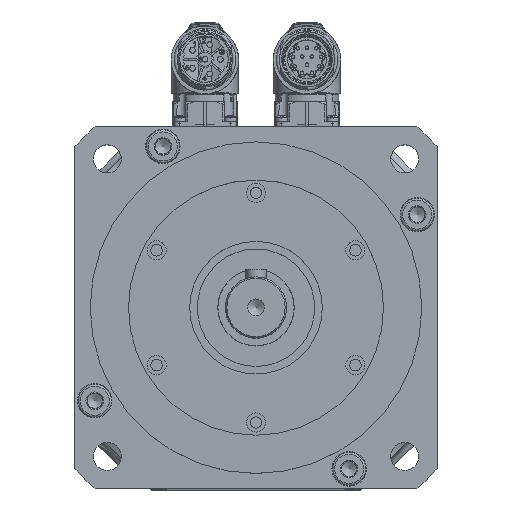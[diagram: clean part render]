
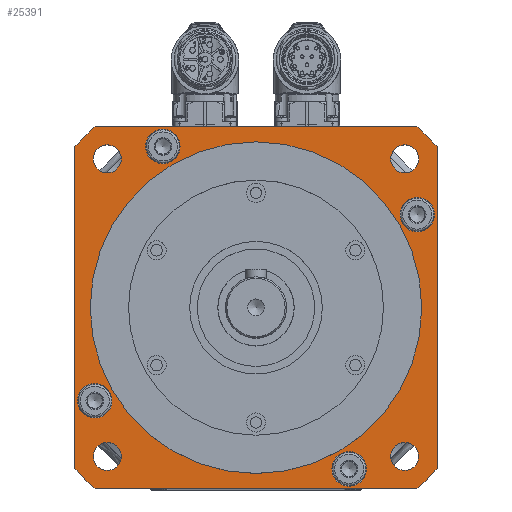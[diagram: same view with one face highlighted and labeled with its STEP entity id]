
A CAD part, top view. The second image highlights one B-rep face of the part: STEP entity #25391.
In plain terms, the highlighted planar face has unit normal (0, 0, 1).
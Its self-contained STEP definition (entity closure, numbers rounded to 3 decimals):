
#2255=LINE('',#38589,#3486);
#2259=LINE('',#38595,#3490);
#2260=LINE('',#38597,#3491);
#2261=LINE('',#38599,#3492);
#3486=VECTOR('',#31401,126.238);
#3490=VECTOR('',#31409,126.238);
#3491=VECTOR('',#31412,126.238);
#3492=VECTOR('',#31415,126.238);
#6186=FACE_BOUND('',#8733,.T.);
#6187=FACE_BOUND('',#8734,.T.);
#6188=FACE_BOUND('',#8735,.T.);
#6189=FACE_BOUND('',#8736,.T.);
#6190=FACE_BOUND('',#8737,.T.);
#6191=FACE_BOUND('',#8738,.T.);
#6192=FACE_BOUND('',#8739,.T.);
#6193=FACE_BOUND('',#8740,.T.);
#6194=FACE_BOUND('',#8741,.T.);
#6195=FACE_BOUND('',#8742,.T.);
#8733=EDGE_LOOP('',(#19320));
#8734=EDGE_LOOP('',(#19321));
#8735=EDGE_LOOP('',(#19322));
#8736=EDGE_LOOP('',(#19323));
#8737=EDGE_LOOP('',(#19324));
#8738=EDGE_LOOP('',(#19325));
#8739=EDGE_LOOP('',(#19326));
#8740=EDGE_LOOP('',(#19327));
#8741=EDGE_LOOP('',(#19328));
#8742=EDGE_LOOP('',(#19329,#19330,#19331,#19332,#19333,#19334,#19335,#19336));
#10470=CIRCLE('',#27311,5.5);
#10474=CIRCLE('',#27317,6.75);
#10476=CIRCLE('',#27321,5.5);
#10480=CIRCLE('',#27327,6.75);
#10482=CIRCLE('',#27331,5.5);
#10486=CIRCLE('',#27337,6.75);
#10490=CIRCLE('',#27344,6.75);
#10492=CIRCLE('',#27348,5.5);
#10501=CIRCLE('',#27363,65.);
#10502=CIRCLE('',#27366,95.);
#10504=CIRCLE('',#27369,95.);
#10507=CIRCLE('',#27373,95.);
#10508=CIRCLE('',#27375,95.);
#11992=VERTEX_POINT('',#38465);
#11996=VERTEX_POINT('',#38475);
#11998=VERTEX_POINT('',#38481);
#12002=VERTEX_POINT('',#38491);
#12004=VERTEX_POINT('',#38497);
#12008=VERTEX_POINT('',#38507);
#12012=VERTEX_POINT('',#38518);
#12014=VERTEX_POINT('',#38524);
#12023=VERTEX_POINT('',#38548);
#12024=VERTEX_POINT('',#38552);
#12026=VERTEX_POINT('',#38555);
#12028=VERTEX_POINT('',#38561);
#12030=VERTEX_POINT('',#38564);
#12033=VERTEX_POINT('',#38571);
#12035=VERTEX_POINT('',#38575);
#12036=VERTEX_POINT('',#38579);
#12038=VERTEX_POINT('',#38582);
#14771=EDGE_CURVE('',#11992,#11992,#10470,.T.);
#14775=EDGE_CURVE('',#11996,#11996,#10474,.T.);
#14777=EDGE_CURVE('',#11998,#11998,#10476,.T.);
#14781=EDGE_CURVE('',#12002,#12002,#10480,.T.);
#14783=EDGE_CURVE('',#12004,#12004,#10482,.T.);
#14787=EDGE_CURVE('',#12008,#12008,#10486,.T.);
#14791=EDGE_CURVE('',#12012,#12012,#10490,.T.);
#14793=EDGE_CURVE('',#12014,#12014,#10492,.T.);
#14802=EDGE_CURVE('',#12023,#12023,#10501,.T.);
#14804=EDGE_CURVE('',#12026,#12024,#10502,.T.);
#14808=EDGE_CURVE('',#12030,#12028,#10504,.T.);
#14814=EDGE_CURVE('',#12033,#12035,#10507,.T.);
#14816=EDGE_CURVE('',#12038,#12036,#10508,.T.);
#14820=EDGE_CURVE('',#12036,#12033,#2255,.T.);
#14824=EDGE_CURVE('',#12028,#12038,#2259,.T.);
#14825=EDGE_CURVE('',#12024,#12030,#2260,.T.);
#14826=EDGE_CURVE('',#12035,#12026,#2261,.T.);
#19320=ORIENTED_EDGE('',*,*,#14771,.T.);
#19321=ORIENTED_EDGE('',*,*,#14775,.T.);
#19322=ORIENTED_EDGE('',*,*,#14777,.T.);
#19323=ORIENTED_EDGE('',*,*,#14781,.T.);
#19324=ORIENTED_EDGE('',*,*,#14783,.T.);
#19325=ORIENTED_EDGE('',*,*,#14787,.T.);
#19326=ORIENTED_EDGE('',*,*,#14791,.T.);
#19327=ORIENTED_EDGE('',*,*,#14793,.T.);
#19328=ORIENTED_EDGE('',*,*,#14802,.T.);
#19329=ORIENTED_EDGE('',*,*,#14816,.T.);
#19330=ORIENTED_EDGE('',*,*,#14820,.T.);
#19331=ORIENTED_EDGE('',*,*,#14814,.T.);
#19332=ORIENTED_EDGE('',*,*,#14826,.T.);
#19333=ORIENTED_EDGE('',*,*,#14804,.T.);
#19334=ORIENTED_EDGE('',*,*,#14825,.T.);
#19335=ORIENTED_EDGE('',*,*,#14808,.T.);
#19336=ORIENTED_EDGE('',*,*,#14824,.T.);
#24590=PLANE('',#27382);
#25391=ADVANCED_FACE('',(#6186,#6187,#6188,#6189,#6190,#6191,#6192,#6193,
#6194,#6195),#24590,.T.);
#27311=AXIS2_PLACEMENT_3D('',#38466,#31258,#31259);
#27317=AXIS2_PLACEMENT_3D('',#38476,#31270,#31271);
#27321=AXIS2_PLACEMENT_3D('',#38482,#31278,#31279);
#27327=AXIS2_PLACEMENT_3D('',#38492,#31290,#31291);
#27331=AXIS2_PLACEMENT_3D('',#38498,#31298,#31299);
#27337=AXIS2_PLACEMENT_3D('',#38508,#31310,#31311);
#27344=AXIS2_PLACEMENT_3D('',#38519,#31324,#31325);
#27348=AXIS2_PLACEMENT_3D('',#38525,#31332,#31333);
#27363=AXIS2_PLACEMENT_3D('',#38549,#31362,#31363);
#27366=AXIS2_PLACEMENT_3D('',#38556,#31369,#31370);
#27369=AXIS2_PLACEMENT_3D('',#38565,#31377,#31378);
#27373=AXIS2_PLACEMENT_3D('',#38577,#31388,#31389);
#27375=AXIS2_PLACEMENT_3D('',#38583,#31393,#31394);
#27382=AXIS2_PLACEMENT_3D('',#38600,#31416,#31417);
#31258=DIRECTION('center_axis',(0.,0.,-1.));
#31259=DIRECTION('ref_axis',(0.,1.,0.));
#31270=DIRECTION('center_axis',(0.,0.,-1.));
#31271=DIRECTION('ref_axis',(0.,-1.,0.));
#31278=DIRECTION('center_axis',(0.,0.,-1.));
#31279=DIRECTION('ref_axis',(1.,0.,0.));
#31290=DIRECTION('center_axis',(0.,0.,-1.));
#31291=DIRECTION('ref_axis',(-1.,0.,0.));
#31298=DIRECTION('center_axis',(0.,0.,-1.));
#31299=DIRECTION('ref_axis',(0.,-1.,0.));
#31310=DIRECTION('center_axis',(0.,0.,-1.));
#31311=DIRECTION('ref_axis',(0.,1.,0.));
#31324=DIRECTION('center_axis',(0.,0.,-1.));
#31325=DIRECTION('ref_axis',(1.,0.,0.));
#31332=DIRECTION('center_axis',(0.,0.,-1.));
#31333=DIRECTION('ref_axis',(-1.,0.,0.));
#31362=DIRECTION('center_axis',(0.,0.,-1.));
#31363=DIRECTION('ref_axis',(-1.,0.,0.));
#31369=DIRECTION('center_axis',(0.,0.,1.));
#31370=DIRECTION('ref_axis',(-1.,0.,0.));
#31377=DIRECTION('center_axis',(0.,0.,1.));
#31378=DIRECTION('ref_axis',(-1.,0.,0.));
#31388=DIRECTION('center_axis',(0.,0.,1.));
#31389=DIRECTION('ref_axis',(-1.,0.,0.));
#31393=DIRECTION('center_axis',(0.,0.,1.));
#31394=DIRECTION('ref_axis',(-1.,0.,0.));
#31401=DIRECTION('',(0.,-1.,0.));
#31409=DIRECTION('',(-1.,0.,0.));
#31412=DIRECTION('',(0.,1.,0.));
#31415=DIRECTION('',(1.,0.,0.));
#31416=DIRECTION('center_axis',(0.,0.,1.));
#31417=DIRECTION('ref_axis',(1.,0.,0.));
#38465=CARTESIAN_POINT('',(58.336,52.836,15.));
#38466=CARTESIAN_POINT('Origin',(58.336,58.336,15.));
#38475=CARTESIAN_POINT('',(36.5,-69.97,15.));
#38476=CARTESIAN_POINT('Origin',(36.5,-63.22,15.));
#38481=CARTESIAN_POINT('',(52.836,-58.336,15.));
#38482=CARTESIAN_POINT('Origin',(58.336,-58.336,15.));
#38491=CARTESIAN_POINT('',(-69.97,-36.5,15.));
#38492=CARTESIAN_POINT('Origin',(-63.22,-36.5,15.));
#38497=CARTESIAN_POINT('',(-58.336,-52.836,15.));
#38498=CARTESIAN_POINT('Origin',(-58.336,-58.336,15.));
#38507=CARTESIAN_POINT('',(-36.5,69.97,15.));
#38508=CARTESIAN_POINT('Origin',(-36.5,63.22,15.));
#38518=CARTESIAN_POINT('',(69.97,36.5,15.));
#38519=CARTESIAN_POINT('Origin',(63.22,36.5,15.));
#38524=CARTESIAN_POINT('',(-52.836,58.336,15.));
#38525=CARTESIAN_POINT('Origin',(-58.336,58.336,15.));
#38548=CARTESIAN_POINT('',(65.,0.,15.));
#38549=CARTESIAN_POINT('Origin',(0.,0.,15.));
#38552=CARTESIAN_POINT('',(71.,-63.119,15.));
#38555=CARTESIAN_POINT('',(63.119,-71.,15.));
#38556=CARTESIAN_POINT('Origin',(0.,0.,15.));
#38561=CARTESIAN_POINT('',(63.119,71.,15.));
#38564=CARTESIAN_POINT('',(71.,63.119,15.));
#38565=CARTESIAN_POINT('Origin',(0.,0.,15.));
#38571=CARTESIAN_POINT('',(-71.,-63.119,15.));
#38575=CARTESIAN_POINT('',(-63.119,-71.,15.));
#38577=CARTESIAN_POINT('Origin',(0.,0.,15.));
#38579=CARTESIAN_POINT('',(-71.,63.119,15.));
#38582=CARTESIAN_POINT('',(-63.119,71.,15.));
#38583=CARTESIAN_POINT('Origin',(0.,0.,15.));
#38589=CARTESIAN_POINT('',(-71.,71.,15.));
#38595=CARTESIAN_POINT('',(71.,71.,15.));
#38597=CARTESIAN_POINT('',(71.,-71.,15.));
#38599=CARTESIAN_POINT('',(-71.,-71.,15.));
#38600=CARTESIAN_POINT('Origin',(0.,0.,15.));
